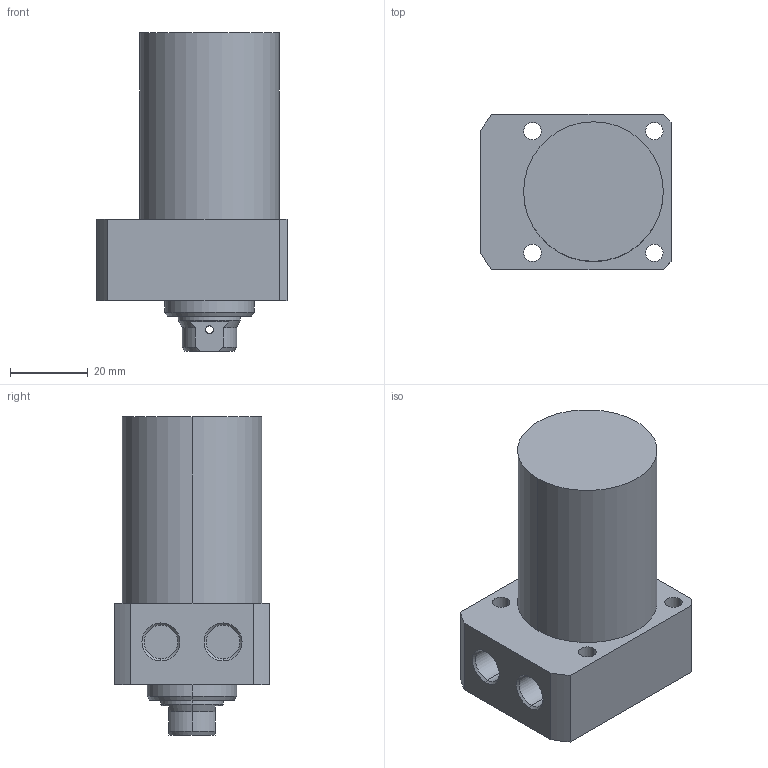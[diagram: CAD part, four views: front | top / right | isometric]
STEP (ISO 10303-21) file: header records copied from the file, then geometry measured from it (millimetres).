
FILE_DESCRIPTION (( 'STEP AP203' ), '1' );
FILE_NAME ('CLLR-036CB-040.STEP', '2019-12-20T00:24:38', ( '' ), ( '' ), 'SwSTEP 2.0', 'SolidWorks 2015', '' );
FILE_SCHEMA (( 'CONFIG_CONTROL_DESIGN' ));
Length unit declared in the file: millimetre
Products named in the file (1): CLLR-036CB-040
Bounding box: 49 x 40 x 82 mm (x, y, z)
Volume: 89539.4 mm3; surface area: 15541 mm2
Topology: 1 solids, 1 shells, 67 faces, 161 edges, 102 vertices
Faces by surface type: cylinder 33, plane 19, cone 15
Entity records: 2131 total; most frequent: CARTESIAN_POINT 429, DIRECTION 360, ORIENTED_EDGE 318, EDGE_CURVE 159, AXIS2_PLACEMENT_3D 145, VERTEX_POINT 102, EDGE_LOOP 87, CIRCLE 77
